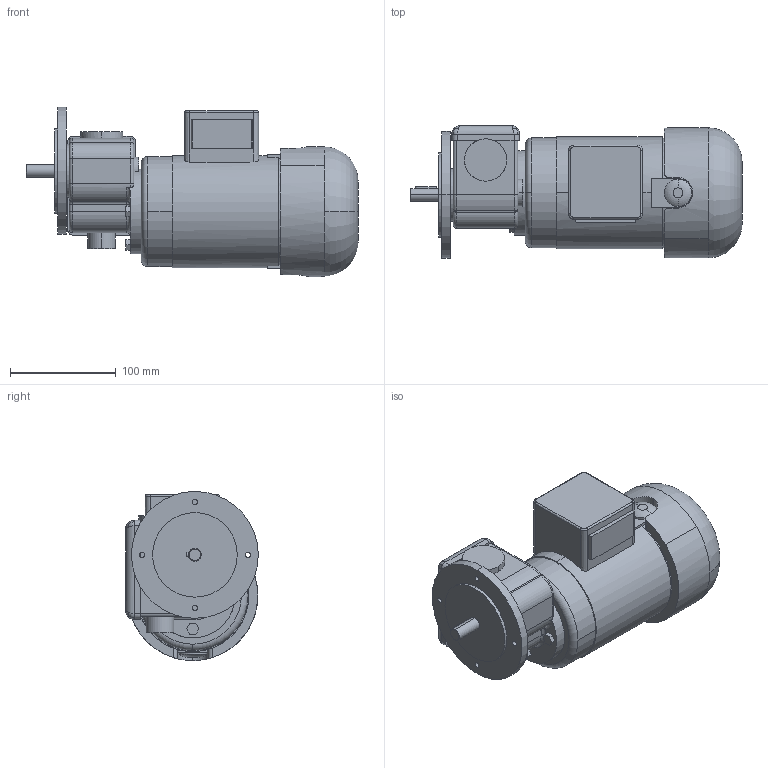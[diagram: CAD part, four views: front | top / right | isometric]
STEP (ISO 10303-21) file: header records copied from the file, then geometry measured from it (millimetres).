
FILE_DESCRIPTION(('OneSpaceDesigner STEP Export'),'2;1');
FILE_NAME('KGOG61-62_GF23-10_N.stp','2008-08-21T 8:29:15',(''),(''),'OneSpace Designer STEP processor (Jan. 2003) for AP214(CD)(Solid Model)','OneSpace Designer 12.01D 09-Jul-2004 (C) CoCreate Software GmbH','');
FILE_SCHEMA(('AUTOMOTIVE_DESIGN_CC2 {1 2 10303 214 -1 1 5 1}'));
Length unit declared in the file: millimetre
Products named in the file (2): KGOG61-62_GF23-10_N
Assembly tree (1 placements, depth 2):
  KGOG61-62_GF23-10_N
    KGOG61-62_GF23-10_N
Bounding box: 314 x 125.5 x 160 mm (x, y, z)
Volume: 2845704.7 mm3; surface area: 163908.1 mm2
Topology: 1 solids, 1 shells, 188 faces, 471 edges, 297 vertices
Faces by surface type: cylinder 73, plane 68, bspline 20, torus 20, extrusion 4, cone 2, sphere 1
Entity records: 10615 total; most frequent: CARTESIAN_POINT 6461, ORIENTED_EDGE 940, DIRECTION 700, EDGE_CURVE 470, VERTEX_POINT 297, AXIS2_PLACEMENT_3D 241, VECTOR 218, LINE 214
